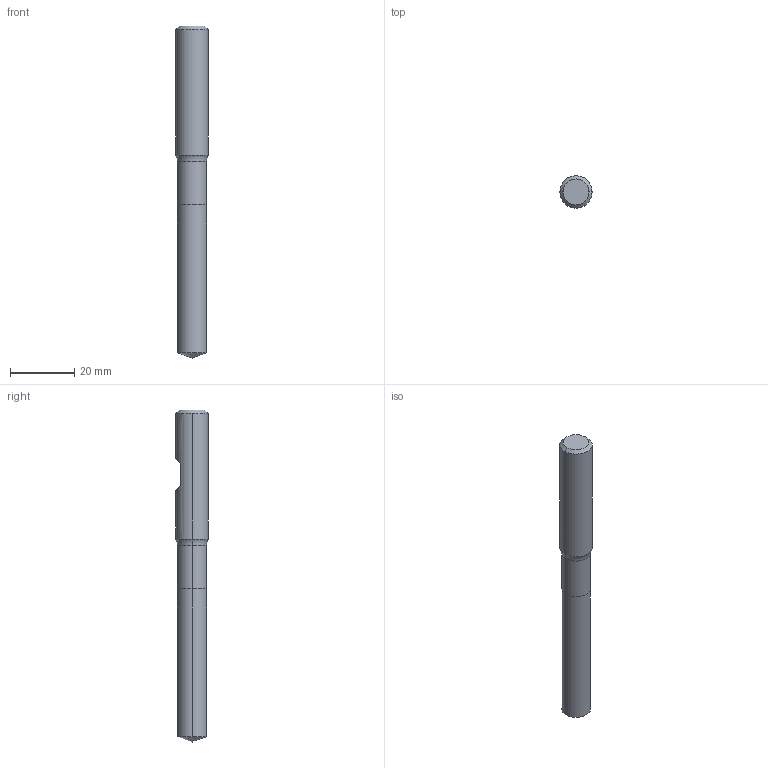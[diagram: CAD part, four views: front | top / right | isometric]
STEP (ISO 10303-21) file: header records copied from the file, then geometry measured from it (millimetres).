
FILE_DESCRIPTION (( 'STEP AP214' ), '1' );
FILE_NAME ('905.090.10_3D-model.step', '2022-02-24T18:36:02', ( '' ), ( '' ), 'SwSTEP 2.0', 'SolidWorks 2020', '' );
FILE_SCHEMA (( 'AUTOMOTIVE_DESIGN' ));
Length unit declared in the file: millimetre
Products named in the file (3): CUT-3D^Baugr193; 905.090.10_3D-model; NOCUT-3D^Baugr193
Assembly tree (2 placements, depth 2):
  905.090.10_3D-model
    CUT-3D^Baugr193
    NOCUT-3D^Baugr193
Bounding box: 10 x 10 x 103 mm (x, y, z)
Volume: 7014.8 mm3; surface area: 3249.6 mm2
Topology: 2 solids, 2 shells, 18 faces, 34 edges, 19 vertices
Faces by surface type: cylinder 6, plane 6, cone 4, torus 2
Entity records: 558 total; most frequent: DIRECTION 98, CARTESIAN_POINT 83, ORIENTED_EDGE 64, AXIS2_PLACEMENT_3D 42, EDGE_CURVE 32, EDGE_LOOP 19, VERTEX_POINT 19, FACE_OUTER_BOUND 18
